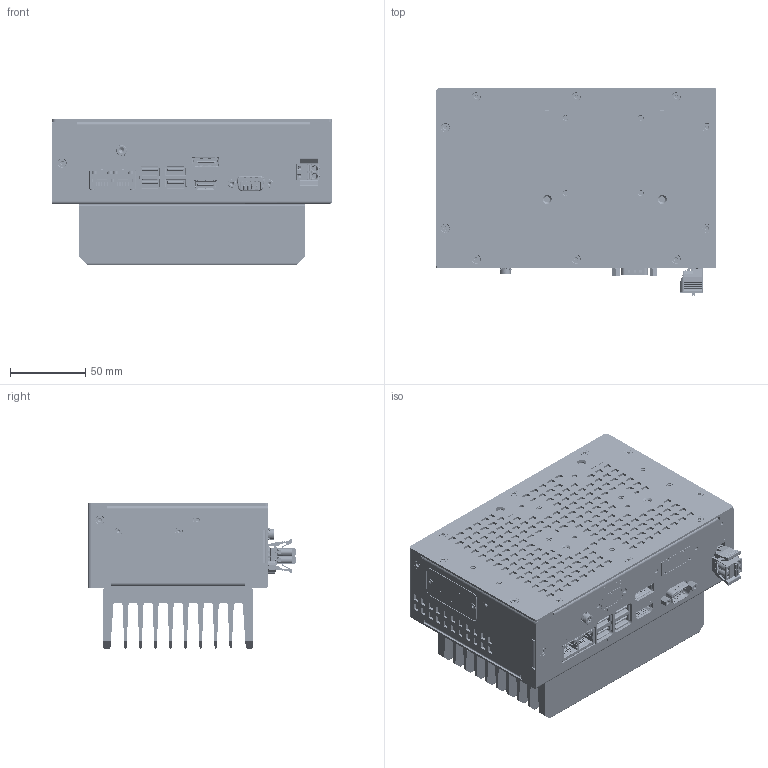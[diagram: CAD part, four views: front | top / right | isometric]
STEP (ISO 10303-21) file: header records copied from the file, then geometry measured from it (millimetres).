
FILE_DESCRIPTION(/* description */ (''),/* implementation_level */ '2;1');
FILE_NAME(/* name */ 'D:\Modelle vereinfacht\notion.B\_notion.B5_CPU14\778-35997-00_IAM_000_Shrinkwrap_1.stp',/* time_stamp */ '2025-10-13T10:46:23+02:00',/* author */ ('Blessing'),/* organization */ (''),/* preprocessor_version */ 'ST-DEVELOPER v18.1',/* originating_system */ 'Autodesk Inventor 2021',/* authorisation */ '');
FILE_SCHEMA (('CONFIG_CONTROL_DESIGN'));
Products named in the file (1): 778-35997-00_IAM_000_Shrinkwrap_1
Bounding box: 186.23 x 138.5 x 96.5 mm (x, y, z)
Volume: 1545525.6 mm3; surface area: 209085.4 mm2
Topology: 2 solids, 28 shells, 12739 faces, 36404 edges, 24046 vertices
Faces by surface type: plane 8801, cylinder 2338, bspline 1297, cone 233, torus 37, sphere 33
Full cylindrical faces by diameter (mm): 0.434 x1, 0.457 x1, 0.65 x16, 0.8 x4, 0.95 x32, 1.1 x4, 1.4 x2, 2.156 x2, 2.2 x1, 2.459 x18, 2.8 x2, 3.242 x4, 3.5 x2, 4 x6, 4.22 x14, 4.3 x14, 4.7 x5, 5.54 x19, 7 x1
Entity records: 451943 total; most frequent: CARTESIAN_POINT 112904, ORIENTED_EDGE 71298, DIRECTION 60893, EDGE_CURVE 36388, LINE 27755, VECTOR 27755, VERTEX_POINT 24046, AXIS2_PLACEMENT_3D 16569
